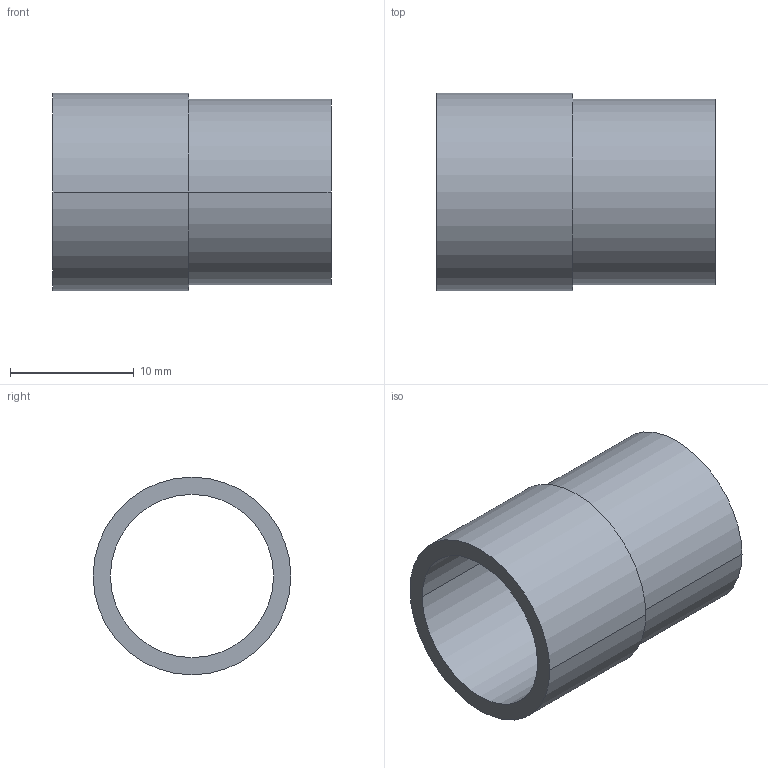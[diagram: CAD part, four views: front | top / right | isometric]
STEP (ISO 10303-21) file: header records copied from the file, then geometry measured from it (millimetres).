
FILE_DESCRIPTION(('Creo Elements/Direct Modeling STEP Export'),'2;1');
FILE_NAME('H07-0021-CL907_G13-13.stp','2012-02-15T14:39:55',(''),(''),'Creo Elements/Direct Modeling STEP processor for AP214 (Solid Model)','Creo Elements/Direct Modeling 18.0B 02-Dec-2011 (C) Parametric Technology GmbH','');
FILE_SCHEMA(('AUTOMOTIVE_DESIGN { 1 0 10303 214 1 1 1 1 }'));
Length unit declared in the file: millimetre
Products named in the file (1): G13-13
Bounding box: 22.5 x 16 x 16 mm (x, y, z)
Volume: 1164.5 mm3; surface area: 2152.8 mm2
Topology: 1 solids, 1 shells, 11 faces, 22 edges, 14 vertices
Faces by surface type: cylinder 6, plane 3, torus 2
Entity records: 287 total; most frequent: DIRECTION 48, ORIENTED_EDGE 44, CARTESIAN_POINT 41, EDGE_CURVE 22, AXIS2_PLACEMENT_3D 21, VERTEX_POINT 14, EDGE_LOOP 14, FACE_OUTER_BOUND 11
